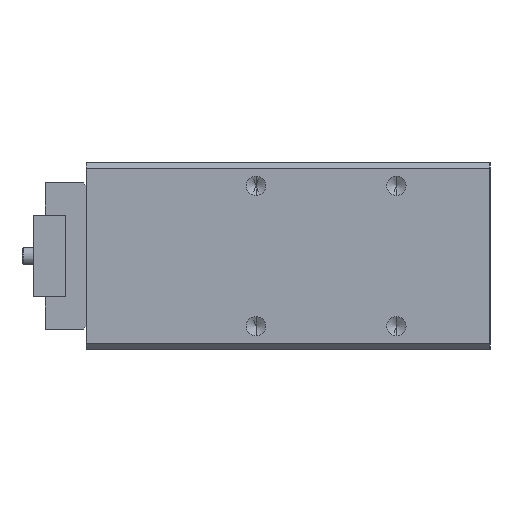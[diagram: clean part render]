
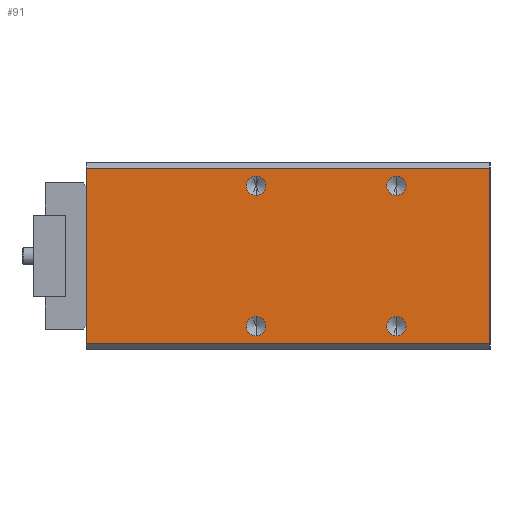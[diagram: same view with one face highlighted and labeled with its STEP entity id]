
A CAD part, left-side view. The second image highlights one B-rep face of the part: STEP entity #91.
In plain terms, the highlighted planar face has unit normal (-1, 0, 0).
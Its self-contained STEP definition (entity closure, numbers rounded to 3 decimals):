
#39 = ORIENTED_EDGE ( 'NONE', *, *, #7286, .F. ) ;
#41 = VERTEX_POINT ( 'NONE', #8383 ) ;
#42 = VERTEX_POINT ( 'NONE', #8382 ) ;
#43 = ORIENTED_EDGE ( 'NONE', *, *, #112, .T. ) ;
#91 = ADVANCED_FACE ( 'NONE', ( #8570, #8569, #8568, #8567, #8566 ), #8610, .F. ) ;
#93 = EDGE_LOOP ( 'NONE', ( #136, #131, #126, #43 ) ) ;
#95 = EDGE_LOOP ( 'NONE', ( #98, #39 ) ) ;
#98 = ORIENTED_EDGE ( 'NONE', *, *, #99, .F. ) ;
#99 = EDGE_CURVE ( 'NONE', #7284, #7289, #8605, .T. ) ;
#112 = EDGE_CURVE ( 'NONE', #42, #130, #8632, .T. ) ;
#118 = EDGE_LOOP ( 'NONE', ( #140, #141 ) ) ;
#126 = ORIENTED_EDGE ( 'NONE', *, *, #127, .F. ) ;
#127 = EDGE_CURVE ( 'NONE', #42, #41, #8699, .T. ) ;
#130 = VERTEX_POINT ( 'NONE', #8694 ) ;
#131 = ORIENTED_EDGE ( 'NONE', *, *, #133, .T. ) ;
#133 = EDGE_CURVE ( 'NONE', #134, #41, #8693, .T. ) ;
#134 = VERTEX_POINT ( 'NONE', #8689 ) ;
#135 = EDGE_CURVE ( 'NONE', #130, #134, #8688, .T. ) ;
#136 = ORIENTED_EDGE ( 'NONE', *, *, #135, .T. ) ;
#140 = ORIENTED_EDGE ( 'NONE', *, *, #184, .F. ) ;
#141 = ORIENTED_EDGE ( 'NONE', *, *, #7318, .F. ) ;
#144 = EDGE_LOOP ( 'NONE', ( #147, #151 ) ) ;
#147 = ORIENTED_EDGE ( 'NONE', *, *, #158, .F. ) ;
#148 = ORIENTED_EDGE ( 'NONE', *, *, #7387, .F. ) ;
#150 = ORIENTED_EDGE ( 'NONE', *, *, #153, .F. ) ;
#151 = ORIENTED_EDGE ( 'NONE', *, *, #7343, .F. ) ;
#152 = EDGE_LOOP ( 'NONE', ( #150, #148 ) ) ;
#153 = EDGE_CURVE ( 'NONE', #7304, #7204, #8705, .T. ) ;
#158 = EDGE_CURVE ( 'NONE', #7344, #7268, #8763, .T. ) ;
#184 = EDGE_CURVE ( 'NONE', #7319, #7324, #8800, .T. ) ;
#465 = CARTESIAN_POINT ( 'NONE',  ( -23., 29., -13.65 ) ) ;
#512 = DIRECTION ( 'NONE',  ( 0., 0., 1. ) ) ;
#513 = DIRECTION ( 'NONE',  ( -1., 0., 0. ) ) ;
#514 = CARTESIAN_POINT ( 'NONE',  ( -23., 29., 12. ) ) ;
#515 = AXIS2_PLACEMENT_3D ( 'NONE', #514, #513, #512 ) ;
#516 = CIRCLE ( 'NONE', #515, 1.65 ) ;
#519 = CARTESIAN_POINT ( 'NONE',  ( -23., 29., 13.65 ) ) ;
#550 = CARTESIAN_POINT ( 'NONE',  ( -23., 29., 10.35 ) ) ;
#563 = CARTESIAN_POINT ( 'NONE',  ( -23., 53., 13.65 ) ) ;
#631 = CARTESIAN_POINT ( 'NONE',  ( -23., 53., -13.65 ) ) ;
#637 = CARTESIAN_POINT ( 'NONE',  ( -23., 53., -10.35 ) ) ;
#638 = DIRECTION ( 'NONE',  ( 0., 0., 1. ) ) ;
#639 = DIRECTION ( 'NONE',  ( -1., 0., 0. ) ) ;
#640 = CARTESIAN_POINT ( 'NONE',  ( -23., 53., -12. ) ) ;
#641 = AXIS2_PLACEMENT_3D ( 'NONE', #640, #639, #638 ) ;
#642 = CIRCLE ( 'NONE', #641, 1.65 ) ;
#729 = CARTESIAN_POINT ( 'NONE',  ( -23., 29., -10.35 ) ) ;
#730 = DIRECTION ( 'NONE',  ( 0., 0., 1. ) ) ;
#731 = DIRECTION ( 'NONE',  ( -1., 0., 0. ) ) ;
#732 = CARTESIAN_POINT ( 'NONE',  ( -23., 29., -12. ) ) ;
#733 = AXIS2_PLACEMENT_3D ( 'NONE', #732, #731, #730 ) ;
#734 = CIRCLE ( 'NONE', #733, 1.65 ) ;
#873 = DIRECTION ( 'NONE',  ( 0., 0., 1. ) ) ;
#874 = DIRECTION ( 'NONE',  ( -1., 0., 0. ) ) ;
#875 = CARTESIAN_POINT ( 'NONE',  ( -23., 53., 12. ) ) ;
#876 = AXIS2_PLACEMENT_3D ( 'NONE', #875, #874, #873 ) ;
#877 = CIRCLE ( 'NONE', #876, 1.65 ) ;
#7204 = VERTEX_POINT ( 'NONE', #13627 ) ;
#7268 = VERTEX_POINT ( 'NONE', #465 ) ;
#7284 = VERTEX_POINT ( 'NONE', #519 ) ;
#7286 = EDGE_CURVE ( 'NONE', #7289, #7284, #516, .T. ) ;
#7289 = VERTEX_POINT ( 'NONE', #550 ) ;
#7304 = VERTEX_POINT ( 'NONE', #563 ) ;
#7318 = EDGE_CURVE ( 'NONE', #7324, #7319, #642, .T. ) ;
#7319 = VERTEX_POINT ( 'NONE', #637 ) ;
#7324 = VERTEX_POINT ( 'NONE', #631 ) ;
#7343 = EDGE_CURVE ( 'NONE', #7268, #7344, #734, .T. ) ;
#7344 = VERTEX_POINT ( 'NONE', #729 ) ;
#7387 = EDGE_CURVE ( 'NONE', #7204, #7304, #877, .T. ) ;
#8382 = CARTESIAN_POINT ( 'NONE',  ( -23., 0., 15. ) ) ;
#8383 = CARTESIAN_POINT ( 'NONE',  ( -23., 0., -15. ) ) ;
#8566 = FACE_BOUND ( 'NONE', #152, .T. ) ;
#8567 = FACE_BOUND ( 'NONE', #144, .T. ) ;
#8568 = FACE_BOUND ( 'NONE', #118, .T. ) ;
#8569 = FACE_OUTER_BOUND ( 'NONE', #93, .T. ) ;
#8570 = FACE_BOUND ( 'NONE', #95, .T. ) ;
#8601 = DIRECTION ( 'NONE',  ( 0., 0., 1. ) ) ;
#8602 = DIRECTION ( 'NONE',  ( -1., 0., 0. ) ) ;
#8603 = CARTESIAN_POINT ( 'NONE',  ( -23., 29., 12. ) ) ;
#8604 = AXIS2_PLACEMENT_3D ( 'NONE', #8603, #8602, #8601 ) ;
#8605 = CIRCLE ( 'NONE', #8604, 1.65 ) ;
#8606 = DIRECTION ( 'NONE',  ( 0., 0., -1. ) ) ;
#8607 = DIRECTION ( 'NONE',  ( 1., 0., 0. ) ) ;
#8608 = CARTESIAN_POINT ( 'NONE',  ( -23., 0., 16. ) ) ;
#8609 = AXIS2_PLACEMENT_3D ( 'NONE', #8608, #8607, #8606 ) ;
#8610 = PLANE ( 'NONE',  #8609 ) ;
#8629 = DIRECTION ( 'NONE',  ( 0., 1., 0. ) ) ;
#8630 = VECTOR ( 'NONE', #8629, 1000. ) ;
#8631 = CARTESIAN_POINT ( 'NONE',  ( -23., 0., 15. ) ) ;
#8632 = LINE ( 'NONE', #8631, #8630 ) ;
#8685 = DIRECTION ( 'NONE',  ( 0., 0., -1. ) ) ;
#8686 = VECTOR ( 'NONE', #8685, 1000. ) ;
#8687 = CARTESIAN_POINT ( 'NONE',  ( -23., 69., 16. ) ) ;
#8688 = LINE ( 'NONE', #8687, #8686 ) ;
#8689 = CARTESIAN_POINT ( 'NONE',  ( -23., 69., -15. ) ) ;
#8690 = DIRECTION ( 'NONE',  ( 0., -1., 0. ) ) ;
#8691 = VECTOR ( 'NONE', #8690, 1000. ) ;
#8692 = CARTESIAN_POINT ( 'NONE',  ( -23., 0., -15. ) ) ;
#8693 = LINE ( 'NONE', #8692, #8691 ) ;
#8694 = CARTESIAN_POINT ( 'NONE',  ( -23., 69., 15. ) ) ;
#8696 = DIRECTION ( 'NONE',  ( 0., 0., -1. ) ) ;
#8697 = VECTOR ( 'NONE', #8696, 1000. ) ;
#8698 = CARTESIAN_POINT ( 'NONE',  ( -23., 0., 16. ) ) ;
#8699 = LINE ( 'NONE', #8698, #8697 ) ;
#8703 = CARTESIAN_POINT ( 'NONE',  ( -23., 53., 12. ) ) ;
#8704 = AXIS2_PLACEMENT_3D ( 'NONE', #8703, #8766, #8765 ) ;
#8705 = CIRCLE ( 'NONE', #8704, 1.65 ) ;
#8759 = DIRECTION ( 'NONE',  ( 0., 0., 1. ) ) ;
#8760 = DIRECTION ( 'NONE',  ( -1., 0., 0. ) ) ;
#8761 = CARTESIAN_POINT ( 'NONE',  ( -23., 29., -12. ) ) ;
#8762 = AXIS2_PLACEMENT_3D ( 'NONE', #8761, #8760, #8759 ) ;
#8763 = CIRCLE ( 'NONE', #8762, 1.65 ) ;
#8765 = DIRECTION ( 'NONE',  ( 0., 0., 1. ) ) ;
#8766 = DIRECTION ( 'NONE',  ( -1., 0., 0. ) ) ;
#8796 = DIRECTION ( 'NONE',  ( 0., 0., 1. ) ) ;
#8797 = DIRECTION ( 'NONE',  ( -1., 0., 0. ) ) ;
#8798 = CARTESIAN_POINT ( 'NONE',  ( -23., 53., -12. ) ) ;
#8799 = AXIS2_PLACEMENT_3D ( 'NONE', #8798, #8797, #8796 ) ;
#8800 = CIRCLE ( 'NONE', #8799, 1.65 ) ;
#13627 = CARTESIAN_POINT ( 'NONE',  ( -23., 53., 10.35 ) ) ;
